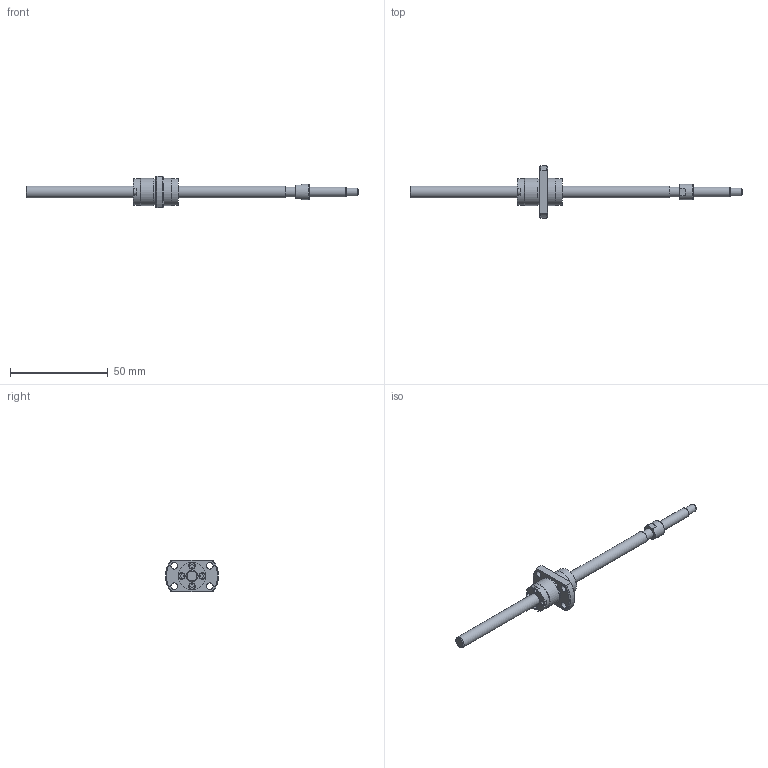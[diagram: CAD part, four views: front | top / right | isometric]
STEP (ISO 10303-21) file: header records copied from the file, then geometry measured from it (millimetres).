
FILE_DESCRIPTION(/* description */ ('STEP AP214'),/* implementation_level */ '2;1');
FILE_NAME(/* name */ 'SG0610-133R170C5A0X(55)',/* time_stamp */ '2026-07-20T20:20:12+02:00',/* author */ ('License CC BY-ND 4.0'),/* organization */ ('CADENAS'),/* preprocessor_version */ 'ST-DEVELOPER v20',/* originating_system */ 'PARTsolutions',/* authorisation */ ' ');
FILE_SCHEMA (('AUTOMOTIVE_DESIGN {1 0 10303 214 3 1 1}'));
Length unit declared in the file: millimetre
Products named in the file (3): SG0610-133R170C5A0X(55); SG0610-133R170C5A_shaft; SG0610 C5_nut
Assembly tree (2 placements, depth 2):
  SG0610-133R170C5A0X(55)
    SG0610-133R170C5A_shaft
    SG0610 C5_nut
Bounding box: 170 x 27 x 16 mm (x, y, z)
Volume: 8319.2 mm3; surface area: 5765.7 mm2
Topology: 2 solids, 2 shells, 99 faces, 227 edges, 149 vertices
Faces by surface type: plane 63, cylinder 25, cone 10, torus 1
Full cylindrical faces by diameter (mm): 3 x4, 3.4 x4, 4 x1, 5 x2, 6 x2, 8 x1, 13.6 x1, 13.8 x2, 14 x2
Entity records: 2751 total; most frequent: CARTESIAN_POINT 472, DIRECTION 466, ORIENTED_EDGE 398, EDGE_CURVE 199, AXIS2_PLACEMENT_3D 173, EDGE_LOOP 152, FACE_BOUND 152, VERTEX_POINT 147
